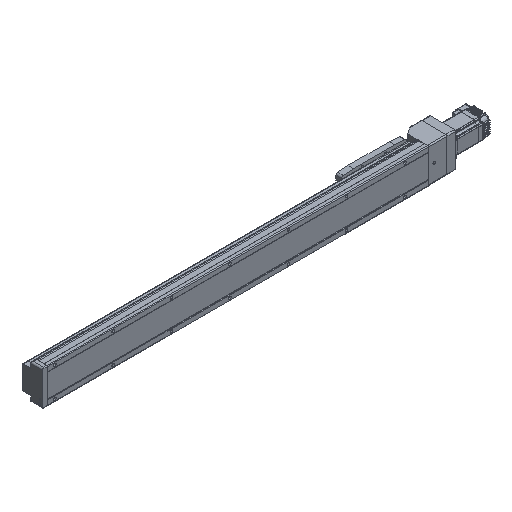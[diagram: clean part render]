
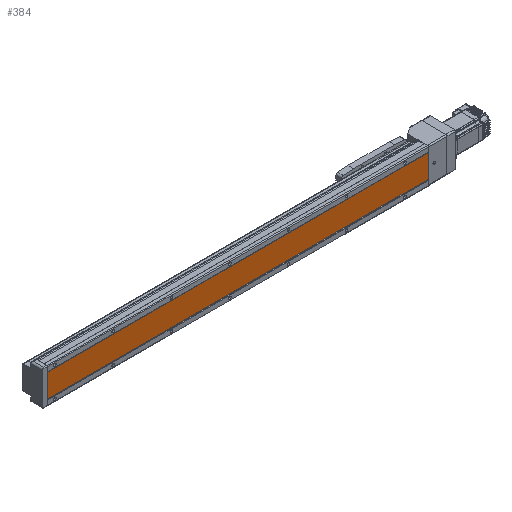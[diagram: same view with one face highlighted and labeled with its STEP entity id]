
A CAD part, isometric view. The second image highlights one B-rep face of the part: STEP entity #384.
In plain terms, the highlighted planar face has unit normal (0, -1, 0).
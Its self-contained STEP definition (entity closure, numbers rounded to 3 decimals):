
#384 = ADVANCED_FACE ( 'NONE', ( #16895 ), #8085, .F. ) ;
#7407 = VECTOR ( 'NONE', #56481, 1000. ) ;
#8085 = PLANE ( 'NONE',  #53148 ) ;
#10900 = EDGE_CURVE ( 'NONE', #38069, #42716, #34841, .T. ) ;
#16895 = FACE_OUTER_BOUND ( 'NONE', #33842, .T. ) ;
#17162 = CARTESIAN_POINT ( 'NONE',  ( -29.843, 1., 978. ) ) ;
#17771 = ORIENTED_EDGE ( 'NONE', *, *, #10900, .F. ) ;
#18133 = EDGE_CURVE ( 'NONE', #50040, #38069, #20860, .T. ) ;
#18590 = CARTESIAN_POINT ( 'NONE',  ( -29.843, 1., 0. ) ) ;
#20203 = VECTOR ( 'NONE', #22395, 1000. ) ;
#20291 = CARTESIAN_POINT ( 'NONE',  ( -29.843, 1., 978. ) ) ;
#20846 = ORIENTED_EDGE ( 'NONE', *, *, #43957, .T. ) ;
#20860 = LINE ( 'NONE', #20291, #7407 ) ;
#22395 = DIRECTION ( 'NONE',  ( 1., 0., 0. ) ) ;
#24594 = VECTOR ( 'NONE', #48668, 1000. ) ;
#25681 = ORIENTED_EDGE ( 'NONE', *, *, #47447, .T. ) ;
#25791 = CARTESIAN_POINT ( 'NONE',  ( -29.843, 1., 0. ) ) ;
#27922 = CARTESIAN_POINT ( 'NONE',  ( 29.843, 1., 978. ) ) ;
#31189 = CARTESIAN_POINT ( 'NONE',  ( -29.843, 1., 1378. ) ) ;
#31758 = LINE ( 'NONE', #18590, #20203 ) ;
#33580 = ORIENTED_EDGE ( 'NONE', *, *, #18133, .F. ) ;
#33842 = EDGE_LOOP ( 'NONE', ( #33580, #20846, #25681, #17771 ) ) ;
#34841 = LINE ( 'NONE', #52626, #54514 ) ;
#35267 = LINE ( 'NONE', #57710, #24594 ) ;
#38069 = VERTEX_POINT ( 'NONE', #27922 ) ;
#39504 = DIRECTION ( 'NONE',  ( 0., 0., -1. ) ) ;
#42716 = VERTEX_POINT ( 'NONE', #50304 ) ;
#43957 = EDGE_CURVE ( 'NONE', #50040, #56904, #35267, .T. ) ;
#47447 = EDGE_CURVE ( 'NONE', #56904, #42716, #31758, .T. ) ;
#48668 = DIRECTION ( 'NONE',  ( 0., 0., -1. ) ) ;
#48691 = DIRECTION ( 'NONE',  ( 0., 0., 1. ) ) ;
#50040 = VERTEX_POINT ( 'NONE', #17162 ) ;
#50304 = CARTESIAN_POINT ( 'NONE',  ( 29.843, 1., 0. ) ) ;
#52626 = CARTESIAN_POINT ( 'NONE',  ( 29.843, 1., 1378. ) ) ;
#52787 = DIRECTION ( 'NONE',  ( 0., 1., 0. ) ) ;
#53148 = AXIS2_PLACEMENT_3D ( 'NONE', #31189, #52787, #48691 ) ;
#54514 = VECTOR ( 'NONE', #39504, 1000. ) ;
#56481 = DIRECTION ( 'NONE',  ( 1., 0., 0. ) ) ;
#56904 = VERTEX_POINT ( 'NONE', #25791 ) ;
#57710 = CARTESIAN_POINT ( 'NONE',  ( -29.843, 1., 1378. ) ) ;
